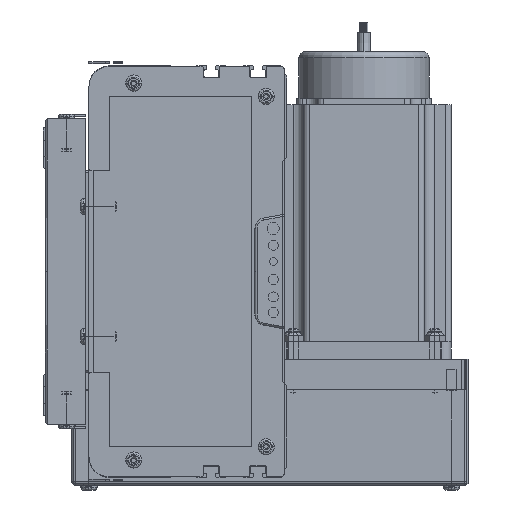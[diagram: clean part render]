
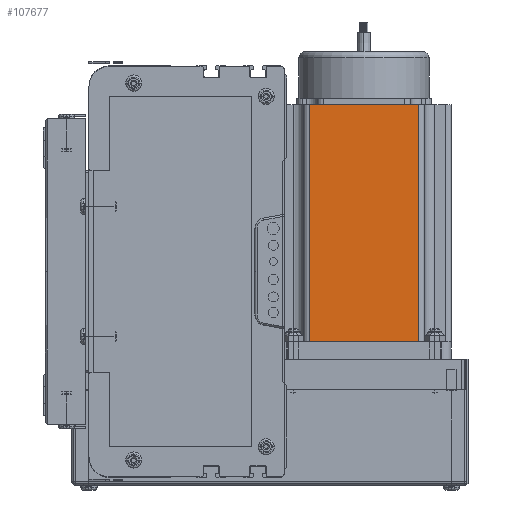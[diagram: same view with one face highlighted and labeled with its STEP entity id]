
A CAD part, left-side view. The second image highlights one B-rep face of the part: STEP entity #107677.
In plain terms, the highlighted planar face has unit normal (-1, 0, 0) as drawn and (0, -1, 0) by its records, which use the part's own axes.
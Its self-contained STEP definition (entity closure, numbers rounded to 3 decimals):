
#51240 = DIRECTION ( 'NONE',  ( 1., 0., 0. ) ) ;
#51241 = VECTOR ( 'NONE', #51240, 1000. ) ;
#51243 = CARTESIAN_POINT ( 'NONE',  ( 0., 0., 0. ) ) ;
#51244 = LINE ( 'NONE', #51243, #51241 ) ;
#51289 = CARTESIAN_POINT ( 'NONE',  ( 0., 0., 116.5 ) ) ;
#51291 = LINE ( 'NONE', #51289, #51414 ) ;
#51411 = DIRECTION ( 'NONE',  ( 1., 0., 0. ) ) ;
#51414 = VECTOR ( 'NONE', #51411, 1000. ) ;
#52192 = FACE_OUTER_BOUND ( 'NONE', #107678, .T. ) ;
#52282 = PLANE ( 'NONE',  #52381 ) ;
#52298 = CARTESIAN_POINT ( 'NONE',  ( 69.74, 0., 116.5 ) ) ;
#52299 = LINE ( 'NONE', #52298, #52401 ) ;
#52376 = DIRECTION ( 'NONE',  ( 0., 0., 1. ) ) ;
#52378 = DIRECTION ( 'NONE',  ( 0., 1., 0. ) ) ;
#52380 = CARTESIAN_POINT ( 'NONE',  ( 0., 0., 116.5 ) ) ;
#52381 = AXIS2_PLACEMENT_3D ( 'NONE', #52380, #52378, #52376 ) ;
#52400 = DIRECTION ( 'NONE',  ( 0., 0., 1. ) ) ;
#52401 = VECTOR ( 'NONE', #52400, 1000. ) ;
#53010 = CARTESIAN_POINT ( 'NONE',  ( 16.16, 0., 0. ) ) ;
#53186 = CARTESIAN_POINT ( 'NONE',  ( 16.16, 0., 116.5 ) ) ;
#53264 = CARTESIAN_POINT ( 'NONE',  ( 69.74, 0., 0. ) ) ;
#53489 = DIRECTION ( 'NONE',  ( 0., 0., -1. ) ) ;
#53490 = CARTESIAN_POINT ( 'NONE',  ( 16.16, 0., 116.5 ) ) ;
#53491 = LINE ( 'NONE', #53490, #53558 ) ;
#53546 = CARTESIAN_POINT ( 'NONE',  ( 69.74, 0., 116.5 ) ) ;
#53558 = VECTOR ( 'NONE', #53489, 1000. ) ;
#106821 = EDGE_CURVE ( 'NONE', #107850, #107880, #51244, .T. ) ;
#106822 = EDGE_CURVE ( 'NONE', #107878, #107953, #51291, .T. ) ;
#106892 = ORIENTED_EDGE ( 'NONE', *, *, #107674, .T. ) ;
#107212 = ORIENTED_EDGE ( 'NONE', *, *, #106822, .F. ) ;
#107514 = ORIENTED_EDGE ( 'NONE', *, *, #106821, .T. ) ;
#107674 = EDGE_CURVE ( 'NONE', #107880, #107953, #52299, .T. ) ;
#107677 = ADVANCED_FACE ( 'NONE', ( #52192 ), #52282, .F. ) ;
#107678 = EDGE_LOOP ( 'NONE', ( #107514, #106892, #107212, #107825 ) ) ;
#107825 = ORIENTED_EDGE ( 'NONE', *, *, #107925, .T. ) ;
#107850 = VERTEX_POINT ( 'NONE', #53010 ) ;
#107878 = VERTEX_POINT ( 'NONE', #53186 ) ;
#107880 = VERTEX_POINT ( 'NONE', #53264 ) ;
#107925 = EDGE_CURVE ( 'NONE', #107878, #107850, #53491, .T. ) ;
#107953 = VERTEX_POINT ( 'NONE', #53546 ) ;
